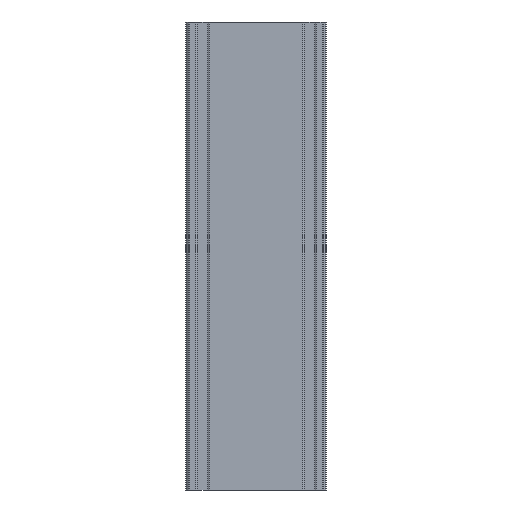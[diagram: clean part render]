
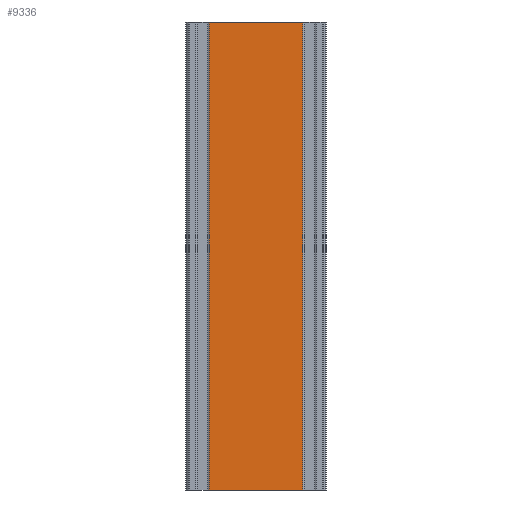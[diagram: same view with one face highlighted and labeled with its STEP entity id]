
A CAD part, left-side view. The second image highlights one B-rep face of the part: STEP entity #9336.
In plain terms, the highlighted planar face has unit normal (-1, 0, 0).
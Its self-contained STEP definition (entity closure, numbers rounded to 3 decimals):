
#28 = CARTESIAN_POINT ( 'NONE',  ( -48., 10.4, 0. ) ) ;
#64 = LINE ( 'NONE', #6763, #8510 ) ;
#325 = EDGE_CURVE ( 'NONE', #5033, #4571, #634, .T. ) ;
#634 = LINE ( 'NONE', #3802, #10607 ) ;
#730 = EDGE_CURVE ( 'NONE', #5033, #4307, #2295, .T. ) ;
#1398 = DIRECTION ( 'NONE',  ( -1., 0., 0. ) ) ;
#2295 = LINE ( 'NONE', #7095, #2831 ) ;
#2512 = CARTESIAN_POINT ( 'NONE',  ( -48., 10.4, -350. ) ) ;
#2831 = VECTOR ( 'NONE', #6238, 1000. ) ;
#3043 = CARTESIAN_POINT ( 'NONE',  ( -48., 0., -350. ) ) ;
#3140 = EDGE_CURVE ( 'NONE', #4307, #8073, #5085, .T. ) ;
#3802 = CARTESIAN_POINT ( 'NONE',  ( -48., 0., -350. ) ) ;
#4307 = VERTEX_POINT ( 'NONE', #28 ) ;
#4567 = VECTOR ( 'NONE', #5771, 1000. ) ;
#4571 = VERTEX_POINT ( 'NONE', #9318 ) ;
#5033 = VERTEX_POINT ( 'NONE', #2512 ) ;
#5085 = LINE ( 'NONE', #8983, #4567 ) ;
#5430 = ORIENTED_EDGE ( 'NONE', *, *, #3140, .F. ) ;
#5771 = DIRECTION ( 'NONE',  ( 0., -1., 0. ) ) ;
#6046 = CARTESIAN_POINT ( 'NONE',  ( -48., -59.4, 0. ) ) ;
#6238 = DIRECTION ( 'NONE',  ( 0., 0., 1. ) ) ;
#6250 = DIRECTION ( 'NONE',  ( 0., -1., 0. ) ) ;
#6329 = FACE_OUTER_BOUND ( 'NONE', #7132, .T. ) ;
#6763 = CARTESIAN_POINT ( 'NONE',  ( -48., -59.4, -350. ) ) ;
#6803 = DIRECTION ( 'NONE',  ( 0., 0., 1. ) ) ;
#7095 = CARTESIAN_POINT ( 'NONE',  ( -48., 10.4, -350. ) ) ;
#7132 = EDGE_LOOP ( 'NONE', ( #5430, #9398, #8694, #8877 ) ) ;
#7700 = AXIS2_PLACEMENT_3D ( 'NONE', #3043, #1398, #9609 ) ;
#8073 = VERTEX_POINT ( 'NONE', #6046 ) ;
#8510 = VECTOR ( 'NONE', #6803, 1000. ) ;
#8694 = ORIENTED_EDGE ( 'NONE', *, *, #325, .T. ) ;
#8793 = PLANE ( 'NONE',  #7700 ) ;
#8877 = ORIENTED_EDGE ( 'NONE', *, *, #9145, .T. ) ;
#8983 = CARTESIAN_POINT ( 'NONE',  ( -48., 0., 0. ) ) ;
#9145 = EDGE_CURVE ( 'NONE', #4571, #8073, #64, .T. ) ;
#9318 = CARTESIAN_POINT ( 'NONE',  ( -48., -59.4, -350. ) ) ;
#9336 = ADVANCED_FACE ( 'NONE', ( #6329 ), #8793, .T. ) ;
#9398 = ORIENTED_EDGE ( 'NONE', *, *, #730, .F. ) ;
#9609 = DIRECTION ( 'NONE',  ( 0., 0., 1. ) ) ;
#10607 = VECTOR ( 'NONE', #6250, 1000. ) ;
